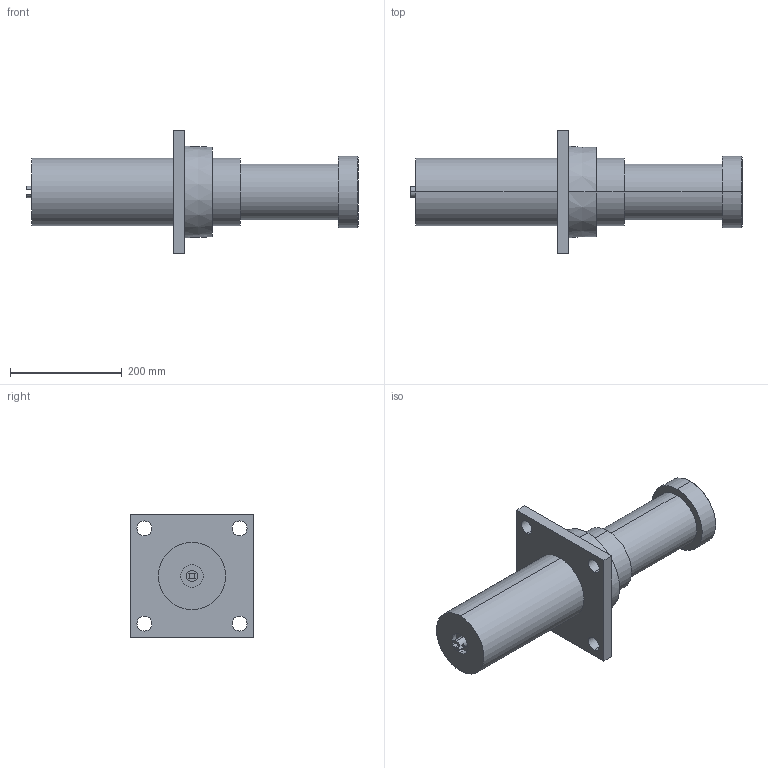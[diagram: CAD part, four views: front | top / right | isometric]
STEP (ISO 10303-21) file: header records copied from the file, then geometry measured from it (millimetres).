
FILE_DESCRIPTION (( 'STEP AP214' ), '1' );
FILE_NAME ('LDH120X150FF.STEP', '2019-01-21T04:58:49', ( 'user' ), ( 'Microsoft' ), 'SwSTEP 2.0', 'SolidWorks 2016', '' );
FILE_SCHEMA (( 'AUTOMOTIVE_DESIGN' ));
Length unit declared in the file: millimetre
Products named in the file (1): LDH120X150FF
Bounding box: 593 x 220 x 220 mm (x, y, z)
Volume: 7186795.7 mm3; surface area: 337311.9 mm2
Topology: 1 solids, 5 shells, 63 faces, 136 edges, 90 vertices
Faces by surface type: cylinder 30, plane 29, cone 4
Entity records: 1790 total; most frequent: DIRECTION 338, CARTESIAN_POINT 290, ORIENTED_EDGE 272, AXIS2_PLACEMENT_3D 138, EDGE_CURVE 136, VERTEX_POINT 90, EDGE_LOOP 78, CIRCLE 74
